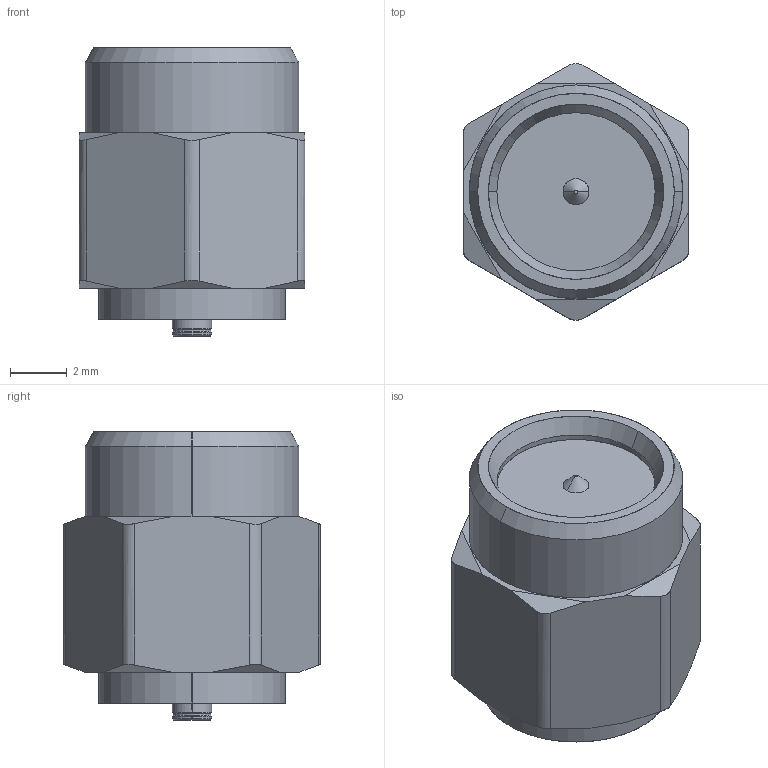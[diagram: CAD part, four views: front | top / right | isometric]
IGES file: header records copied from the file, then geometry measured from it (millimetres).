
Start section: SolidWorks IGES file using analytic representation for surfaces
Global section: file name: C:\3dwork\Toida\アダプタ関連　3Dモデル\90543-001\90543-001_MHF 5 SMA adapter.IGS; native system: SolidWorks 2017; preprocessor: SolidWorks 2017; author: ipxcad-021; date: 200331.153506; units: millimetre
Bounding box: 8 x 9.08 x 10.2 mm (x, y, z)
Surface area: 359.7 mm2 (no closed solid volume)
Topology: 0 solids, 0 shells, 62 faces, 620 edges, 618 vertices
Faces by surface type: revolution 36, bspline 26
